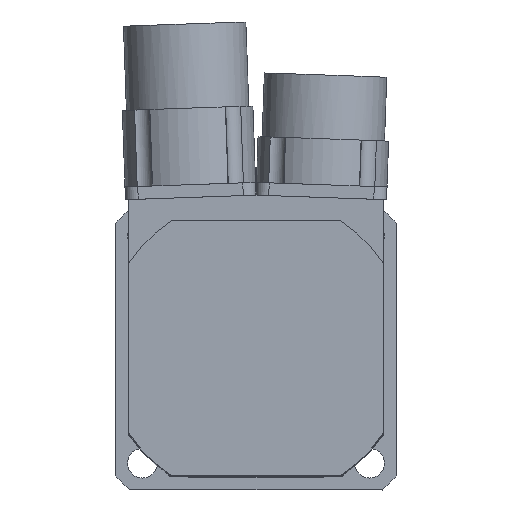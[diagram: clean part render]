
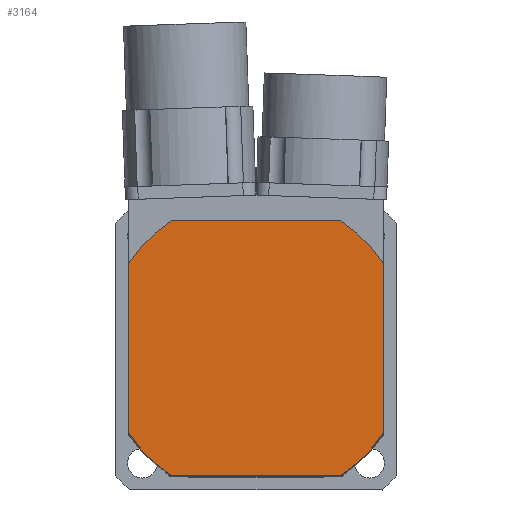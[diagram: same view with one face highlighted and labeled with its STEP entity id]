
A CAD part, top view. The second image highlights one B-rep face of the part: STEP entity #3164.
In plain terms, the highlighted planar face has unit normal (0, 0, 1).
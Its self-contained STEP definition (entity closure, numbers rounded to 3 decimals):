
#687=CIRCLE('',#3377,30.);
#688=CIRCLE('',#3379,30.);
#689=CIRCLE('',#3381,30.);
#691=CIRCLE('',#3384,30.);
#925=VERTEX_POINT('',#5205);
#926=VERTEX_POINT('',#5207);
#933=VERTEX_POINT('',#5222);
#934=VERTEX_POINT('',#5224);
#945=VERTEX_POINT('',#5291);
#946=VERTEX_POINT('',#5293);
#957=VERTEX_POINT('',#5341);
#958=VERTEX_POINT('',#5350);
#1169=VECTOR('',#3875,1.);
#1177=VECTOR('',#3884,1.);
#1185=VECTOR('',#3901,1.);
#1205=VECTOR('',#3965,1.);
#1362=LINE('',#5206,#1169);
#1370=LINE('',#5223,#1177);
#1378=LINE('',#5292,#1185);
#1398=LINE('',#5353,#1205);
#1630=EDGE_CURVE('',#925,#926,#1362,.T.);
#1638=EDGE_CURVE('',#933,#934,#1370,.T.);
#1650=EDGE_CURVE('',#945,#946,#1378,.T.);
#1675=EDGE_CURVE('',#957,#933,#687,.T.);
#1677=EDGE_CURVE('',#934,#925,#688,.T.);
#1678=EDGE_CURVE('',#926,#945,#689,.T.);
#1680=EDGE_CURVE('',#946,#958,#691,.T.);
#1682=EDGE_CURVE('',#958,#957,#1398,.T.);
#2295=ORIENTED_EDGE('',*,*,#1675,.F.);
#2296=ORIENTED_EDGE('',*,*,#1682,.F.);
#2297=ORIENTED_EDGE('',*,*,#1680,.F.);
#2298=ORIENTED_EDGE('',*,*,#1650,.F.);
#2299=ORIENTED_EDGE('',*,*,#1678,.F.);
#2300=ORIENTED_EDGE('',*,*,#1630,.F.);
#2301=ORIENTED_EDGE('',*,*,#1677,.F.);
#2302=ORIENTED_EDGE('',*,*,#1638,.F.);
#2750=EDGE_LOOP('',(#2295,#2296,#2297,#2298,#2299,#2300,#2301,#2302));
#2969=FACE_BOUND('',#2750,.T.);
#3164=ADVANCED_FACE('',(#2969),#5753,.T.);
#3377=AXIS2_PLACEMENT_3D('',#5340,#3946,#3947);
#3379=AXIS2_PLACEMENT_3D('',#5344,#3951,#3952);
#3381=AXIS2_PLACEMENT_3D('',#5346,#3955,#3956);
#3384=AXIS2_PLACEMENT_3D('',#5349,#3961,#3962);
#3386=AXIS2_PLACEMENT_3D('',#5354,#3966,$);
#3875=DIRECTION('',(-1.,0.,0.));
#3884=DIRECTION('',(0.,-1.,0.));
#3901=DIRECTION('',(0.,1.,0.));
#3946=DIRECTION('',(0.,0.,-1.));
#3947=DIRECTION('',(-25.,-16.583,0.));
#3951=DIRECTION('',(0.,0.,-1.));
#3952=DIRECTION('',(-16.583,25.,0.));
#3955=DIRECTION('',(0.,0.,-1.));
#3956=DIRECTION('',(25.,16.583,0.));
#3961=DIRECTION('',(0.,0.,-1.));
#3962=DIRECTION('',(16.583,-25.,0.));
#3965=DIRECTION('',(1.,0.,0.));
#3966=DIRECTION('',(0.,0.,1.));
#5205=CARTESIAN_POINT('',(16.583,-25.,3.5));
#5206=CARTESIAN_POINT('',(16.583,-25.,3.5));
#5207=CARTESIAN_POINT('',(-16.583,-25.,3.5));
#5222=CARTESIAN_POINT('',(25.,16.583,3.5));
#5223=CARTESIAN_POINT('',(25.,16.583,3.5));
#5224=CARTESIAN_POINT('',(25.,-16.583,3.5));
#5291=CARTESIAN_POINT('',(-25.,-16.583,3.5));
#5292=CARTESIAN_POINT('',(-25.,-16.583,3.5));
#5293=CARTESIAN_POINT('',(-25.,16.583,3.5));
#5340=CARTESIAN_POINT('',(0.,0.,3.5));
#5341=CARTESIAN_POINT('',(16.583,25.,3.5));
#5344=CARTESIAN_POINT('',(0.,0.,3.5));
#5346=CARTESIAN_POINT('',(0.,0.,3.5));
#5349=CARTESIAN_POINT('',(0.,0.,3.5));
#5350=CARTESIAN_POINT('',(-16.583,25.,3.5));
#5353=CARTESIAN_POINT('',(-16.583,25.,3.5));
#5354=CARTESIAN_POINT('',(0.,0.,3.5));
#5753=PLANE('',#3386);
